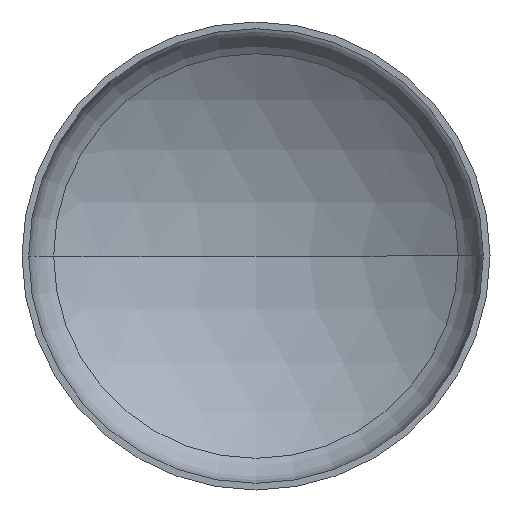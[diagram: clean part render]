
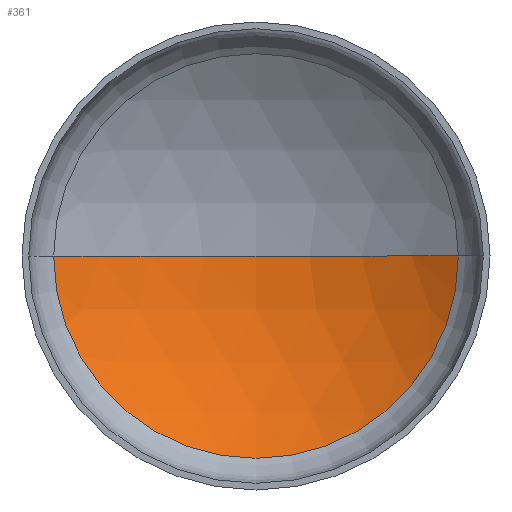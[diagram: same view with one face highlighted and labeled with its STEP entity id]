
A CAD part, front view. The second image highlights one B-rep face of the part: STEP entity #361.
In plain terms, the highlighted spherical face has radius 107.76 mm.
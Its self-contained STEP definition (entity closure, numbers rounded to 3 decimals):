
#20 = CARTESIAN_POINT ( 'NONE',  ( 0., 14.983, 0. ) ) ;
#34 = AXIS2_PLACEMENT_3D ( 'NONE', #87, #183, #246 ) ;
#38 = CARTESIAN_POINT ( 'NONE',  ( -60.398, 14.983, 0. ) ) ;
#48 = DIRECTION ( 'NONE',  ( -1., 0., 0. ) ) ;
#62 = SPHERICAL_SURFACE ( 'NONE', #34, 107.76 ) ;
#63 = VERTEX_POINT ( 'NONE', #38 ) ;
#73 = EDGE_CURVE ( 'NONE', #63, #249, #374, .T. ) ;
#77 = DIRECTION ( 'NONE',  ( 0., 0., 1. ) ) ;
#85 = DIRECTION ( 'NONE',  ( 1., 0., 0. ) ) ;
#87 = CARTESIAN_POINT ( 'NONE',  ( 0., -74.26, 0. ) ) ;
#89 = VERTEX_POINT ( 'NONE', #284 ) ;
#91 = FACE_OUTER_BOUND ( 'NONE', #98, .T. ) ;
#98 = EDGE_LOOP ( 'NONE', ( #152, #300, #405 ) ) ;
#152 = ORIENTED_EDGE ( 'NONE', *, *, #197, .F. ) ;
#158 = EDGE_CURVE ( 'NONE', #89, #249, #404, .T. ) ;
#183 = DIRECTION ( 'NONE',  ( 0., 0., 1. ) ) ;
#197 = EDGE_CURVE ( 'NONE', #89, #63, #201, .T. ) ;
#201 = CIRCLE ( 'NONE', #219, 60.398 ) ;
#219 = AXIS2_PLACEMENT_3D ( 'NONE', #20, #234, #48 ) ;
#225 = CARTESIAN_POINT ( 'NONE',  ( 0., -74.26, 0. ) ) ;
#234 = DIRECTION ( 'NONE',  ( 0., 1., 0. ) ) ;
#246 = DIRECTION ( 'NONE',  ( -1., 0., 0. ) ) ;
#249 = VERTEX_POINT ( 'NONE', #398 ) ;
#257 = DIRECTION ( 'NONE',  ( -1., 0., 0. ) ) ;
#259 = CARTESIAN_POINT ( 'NONE',  ( 0., -74.26, 0. ) ) ;
#284 = CARTESIAN_POINT ( 'NONE',  ( 60.398, 14.983, 0. ) ) ;
#286 = DIRECTION ( 'NONE',  ( 0., 0., -1. ) ) ;
#300 = ORIENTED_EDGE ( 'NONE', *, *, #158, .T. ) ;
#351 = AXIS2_PLACEMENT_3D ( 'NONE', #259, #286, #257 ) ;
#361 = ADVANCED_FACE ( 'NONE', ( #91 ), #62, .F. ) ;
#374 = CIRCLE ( 'NONE', #351, 107.76 ) ;
#391 = AXIS2_PLACEMENT_3D ( 'NONE', #225, #77, #85 ) ;
#398 = CARTESIAN_POINT ( 'NONE',  ( 0., 33.5, 0. ) ) ;
#404 = CIRCLE ( 'NONE', #391, 107.76 ) ;
#405 = ORIENTED_EDGE ( 'NONE', *, *, #73, .F. ) ;
